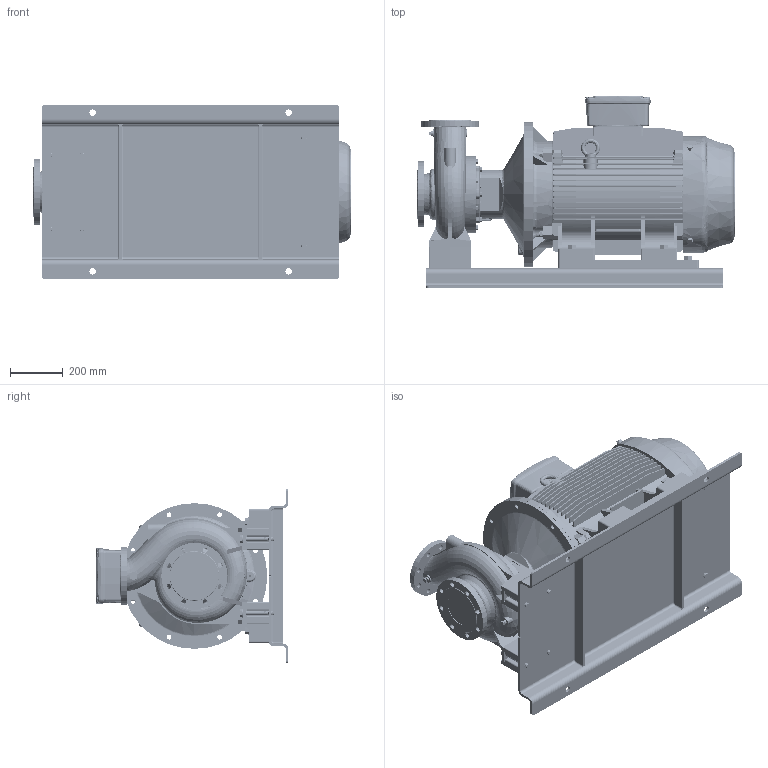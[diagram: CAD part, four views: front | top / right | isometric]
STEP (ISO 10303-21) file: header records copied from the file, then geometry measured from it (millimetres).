
FILE_DESCRIPTION (( 'STEP AP214' ), '1' );
FILE_NAME ('GSD2 100-200_55 & 75_(250SM)_W21_BP.STEP', '2024-08-02T01:23:02', ( '' ), ( '' ), 'SwSTEP 2.0', 'SolidWorks 2019', '' );
FILE_SCHEMA (( 'AUTOMOTIVE_DESIGN' ));
Length unit declared in the file: millimetre
Products named in the file (20): Parametric bolt and washer_SFT-A417B; GSD2  100-200_55 & 75_(250SM)_W21_BP; Parametric bolt and washer_SFT-A387B; N8S3 GSDA-836 F1-1832960-00; Parametric Flat Washer_M20; Parametric Flat Washer_M16; 100x30 - CGSDA-5291; CGS11-5321_2_3_4_5_CGS11-5322; 250S_M2P IE3_W21T_B35; Parametric bolt_SFT-A417B; Parametric bolt_SFT-A387B; A407B Bolt_407; CGS11-5321_2_3_4_5_CGS11-5324; 100-200-250S_M_______
Assembly tree (39 placements, depth 3):
  GSD2  100-200_55 & 75_(250SM)_W21_BP
    100-200-250S_M_______
    250S_M2P IE3_W21T_B35
    CGS11-5321_2_3_4_5_CGS11-5322  x4
    CGS11-5321_2_3_4_5_CGS11-5324  x2
    N8S3 GSDA-836 F1-1832960-00
    100x30 - CGSDA-5291  x2
    Parametric bolt and washer_SFT-A387B
      Parametric bolt_SFT-A387B
      Parametric Flat Washer_M16
    Parametric bolt and washer_SFT-A387B
      Parametric bolt_SFT-A387B
      Parametric Flat Washer_M16
    Parametric bolt and washer_SFT-A387B
      Parametric bolt_SFT-A387B
      Parametric Flat Washer_M16
    Parametric bolt and washer_SFT-A387B
      Parametric bolt_SFT-A387B
      Parametric Flat Washer_M16
    Parametric bolt and washer_SFT-A417B
      Parametric bolt_SFT-A417B
      Parametric Flat Washer_M20
    Parametric bolt and washer_SFT-A417B
      Parametric bolt_SFT-A417B
      Parametric Flat Washer_M20
    Parametric bolt and washer_SFT-A417B
      Parametric bolt_SFT-A417B
      Parametric Flat Washer_M20
    Parametric bolt and washer_SFT-A417B
      Parametric bolt_SFT-A417B
      Parametric Flat Washer_M20
    A407B Bolt_407  x2
    Parametric Flat Washer_M20  x2
Bounding box: 1200.5 x 728 x 660 mm (x, y, z)
Volume: 155608384.7 mm3; surface area: 7495544.2 mm2
Topology: 33 solids, 38 shells, 4281 faces, 11337 edges, 7245 vertices
Faces by surface type: plane 1693, cylinder 1508, cone 451, bspline 323, torus 290, sphere 16
Entity records: 182635 total; most frequent: CARTESIAN_POINT 94914, ORIENTED_EDGE 19210, DIRECTION 17308, EDGE_CURVE 9605, AXIS2_PLACEMENT_3D 6338, VERTEX_POINT 6118, VECTOR 4632, LINE 4632
